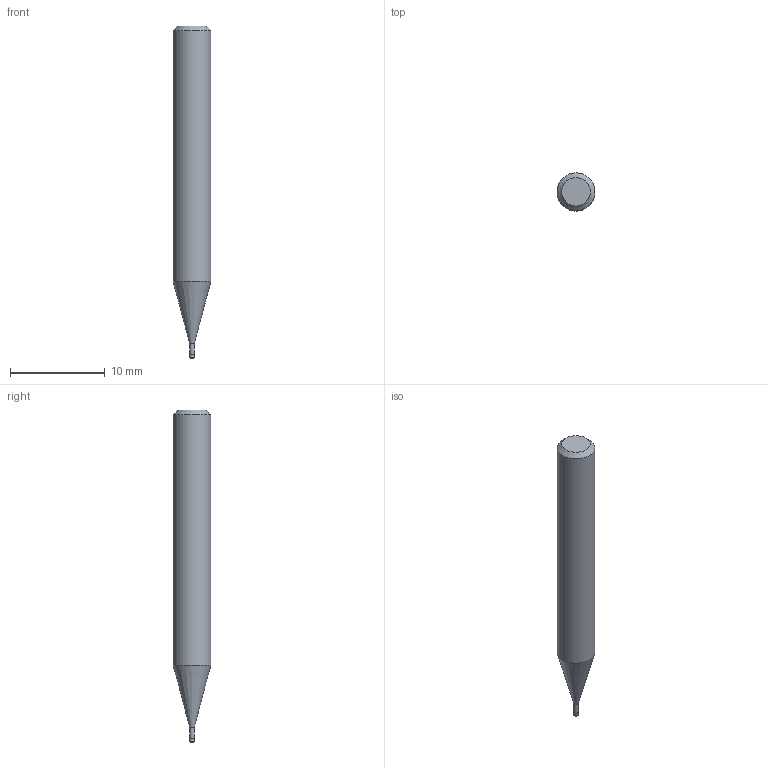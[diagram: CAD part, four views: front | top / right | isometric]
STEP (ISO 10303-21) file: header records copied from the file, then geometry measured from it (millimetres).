
FILE_DESCRIPTION((''),'2;1');
FILE_NAME('C:\Users\nsx150\AppData\Local\Temp\Mastercam 2021\80JYEHYUML\TEMP.step','2022-03-29T14:35:16',(''),(''),'STEP Write','Mastercam 2021 ... CNC Software, Inc.','');
FILE_SCHEMA(('AUTOMOTIVE_DESIGN'));
Length unit declared in the file: millimetre
Products named in the file (1): None
Bounding box: 4 x 4 x 35 mm (x, y, z)
Volume: 368 mm3; surface area: 397.2 mm2
Topology: 2 solids, 2 shells, 10 faces, 14 edges, 8 vertices
Faces by surface type: plane 4, cylinder 3, cone 2, torus 1
Full cylindrical faces by diameter (mm): 0.46 x1, 0.5 x1, 4 x1
Entity records: 232 total; most frequent: DIRECTION 40, CARTESIAN_POINT 28, AXIS2_PLACEMENT_3D 20, ORIENTED_EDGE 16, EDGE_LOOP 16, STYLED_ITEM 13, ADVANCED_FACE 10, FACE_BOUND 10
